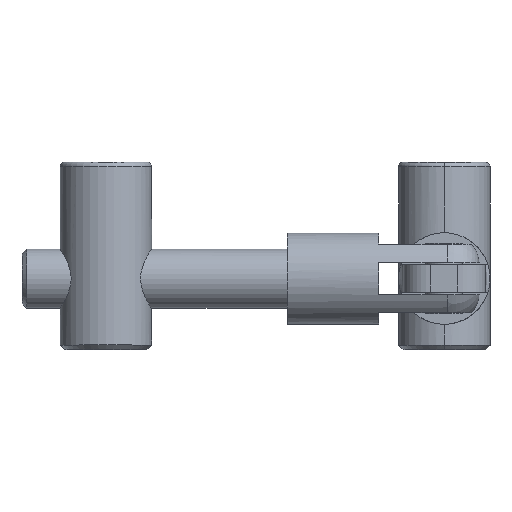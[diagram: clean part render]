
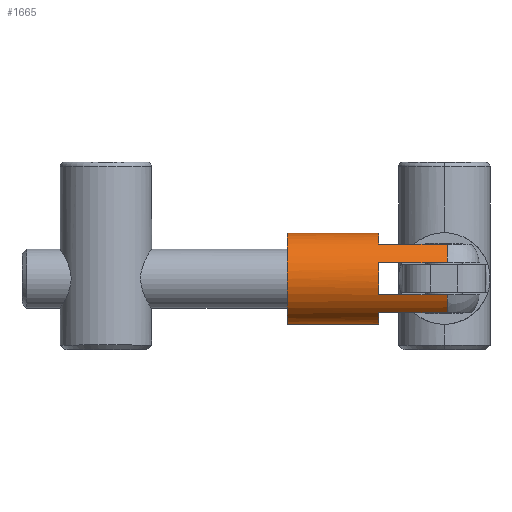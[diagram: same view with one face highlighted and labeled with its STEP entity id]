
A CAD part, top view. The second image highlights one B-rep face of the part: STEP entity #1665.
In plain terms, the highlighted cylindrical face has radius 5 mm (diameter 10 mm), a partial arc.
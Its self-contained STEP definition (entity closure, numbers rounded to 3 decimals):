
#12 = ORIENTED_EDGE ( 'NONE', *, *, #2415, .T. ) ;
#65 = EDGE_CURVE ( 'NONE', #2824, #1765, #717, .T. ) ;
#69 = CARTESIAN_POINT ( 'NONE',  ( -10.274, -2.469, 46.5 ) ) ;
#107 = CARTESIAN_POINT ( 'NONE',  ( -5.274, -2.469, 39. ) ) ;
#131 = ORIENTED_EDGE ( 'NONE', *, *, #199, .F. ) ;
#174 = DIRECTION ( 'NONE',  ( 0., 0., 1. ) ) ;
#199 = EDGE_CURVE ( 'NONE', #1462, #3005, #1901, .T. ) ;
#219 = ORIENTED_EDGE ( 'NONE', *, *, #1911, .T. ) ;
#258 = CIRCLE ( 'NONE', #3291, 5. ) ;
#293 = CARTESIAN_POINT ( 'NONE',  ( -6.538, -5.792, 50. ) ) ;
#306 = VERTEX_POINT ( 'NONE', #2462 ) ;
#328 = EDGE_CURVE ( 'NONE', #1418, #1462, #258, .T. ) ;
#359 = DIRECTION ( 'NONE',  ( -1., 0., 0. ) ) ;
#393 = CARTESIAN_POINT ( 'NONE',  ( -15.274, -2.469, 29. ) ) ;
#463 = CARTESIAN_POINT ( 'NONE',  ( -12.038, -7.148, 50. ) ) ;
#466 = DIRECTION ( 'NONE',  ( 0., 0., 1. ) ) ;
#481 = DIRECTION ( 'NONE',  ( 0., 0., -1. ) ) ;
#520 = EDGE_CURVE ( 'NONE', #2543, #687, #2819, .T. ) ;
#687 = VERTEX_POINT ( 'NONE', #393 ) ;
#717 = CIRCLE ( 'NONE', #3366, 5. ) ;
#778 = CARTESIAN_POINT ( 'NONE',  ( -14.038, -5.761, 50. ) ) ;
#784 = EDGE_CURVE ( 'NONE', #2107, #1782, #2274, .T. ) ;
#787 = CARTESIAN_POINT ( 'NONE',  ( -6.538, -5.792, 39. ) ) ;
#906 = EDGE_LOOP ( 'NONE', ( #131, #3742, #3585, #2322, #12, #3000, #2547, #2007, #219, #2951, #2923, #2605 ) ) ;
#964 = AXIS2_PLACEMENT_3D ( 'NONE', #2220, #466, #2506 ) ;
#968 = CARTESIAN_POINT ( 'NONE',  ( -10.274, -2.469, 46.5 ) ) ;
#1091 = VECTOR ( 'NONE', #2247, 1000. ) ;
#1093 = CARTESIAN_POINT ( 'NONE',  ( -8.538, -7.158, 46.5 ) ) ;
#1130 = CARTESIAN_POINT ( 'NONE',  ( -6.538, -5.792, 46.5 ) ) ;
#1258 = DIRECTION ( 'NONE',  ( -1., 0., 0. ) ) ;
#1286 = CARTESIAN_POINT ( 'NONE',  ( -14.038, -5.761, 39. ) ) ;
#1361 = DIRECTION ( 'NONE',  ( -1., 0., 0. ) ) ;
#1381 = DIRECTION ( 'NONE',  ( 0., 0., 1. ) ) ;
#1388 = EDGE_CURVE ( 'NONE', #1782, #306, #2831, .T. ) ;
#1418 = VERTEX_POINT ( 'NONE', #787 ) ;
#1462 = VERTEX_POINT ( 'NONE', #1968 ) ;
#1485 = CARTESIAN_POINT ( 'NONE',  ( -5.274, -2.469, 29. ) ) ;
#1504 = FACE_OUTER_BOUND ( 'NONE', #906, .T. ) ;
#1554 = AXIS2_PLACEMENT_3D ( 'NONE', #968, #2997, #1258 ) ;
#1574 = VECTOR ( 'NONE', #1978, 1000. ) ;
#1577 = DIRECTION ( 'NONE',  ( 1., 0., 0. ) ) ;
#1614 = DIRECTION ( 'NONE',  ( 0., 0., -1. ) ) ;
#1627 = AXIS2_PLACEMENT_3D ( 'NONE', #3388, #481, #1361 ) ;
#1665 = ADVANCED_FACE ( 'NONE', ( #1504 ), #2962, .T. ) ;
#1671 = CARTESIAN_POINT ( 'NONE',  ( -10.274, -2.469, 29. ) ) ;
#1686 = CARTESIAN_POINT ( 'NONE',  ( -15.274, -2.469, 39. ) ) ;
#1701 = AXIS2_PLACEMENT_3D ( 'NONE', #3120, #1381, #3406 ) ;
#1746 = VERTEX_POINT ( 'NONE', #2264 ) ;
#1763 = CIRCLE ( 'NONE', #3427, 5. ) ;
#1765 = VERTEX_POINT ( 'NONE', #1093 ) ;
#1782 = VERTEX_POINT ( 'NONE', #1975 ) ;
#1886 = EDGE_CURVE ( 'NONE', #2543, #3151, #2092, .T. ) ;
#1900 = CARTESIAN_POINT ( 'NONE',  ( -15.274, -2.469, 39. ) ) ;
#1901 = LINE ( 'NONE', #107, #3355 ) ;
#1911 = EDGE_CURVE ( 'NONE', #1746, #3151, #2604, .T. ) ;
#1926 = CARTESIAN_POINT ( 'NONE',  ( -10.274, -2.469, 39. ) ) ;
#1966 = DIRECTION ( 'NONE',  ( 1., 0., 0. ) ) ;
#1968 = CARTESIAN_POINT ( 'NONE',  ( -5.274, -2.469, 39. ) ) ;
#1975 = CARTESIAN_POINT ( 'NONE',  ( -12.038, -7.148, 39. ) ) ;
#1978 = DIRECTION ( 'NONE',  ( 0., 0., -1. ) ) ;
#2007 = ORIENTED_EDGE ( 'NONE', *, *, #3075, .T. ) ;
#2092 = CIRCLE ( 'NONE', #964, 5. ) ;
#2098 = EDGE_CURVE ( 'NONE', #2824, #1418, #2326, .T. ) ;
#2107 = VERTEX_POINT ( 'NONE', #2634 ) ;
#2114 = DIRECTION ( 'NONE',  ( 0., 0., -1. ) ) ;
#2220 = CARTESIAN_POINT ( 'NONE',  ( -10.274, -2.469, 39. ) ) ;
#2247 = DIRECTION ( 'NONE',  ( 0., 0., -1. ) ) ;
#2264 = CARTESIAN_POINT ( 'NONE',  ( -14.038, -5.761, 46.5 ) ) ;
#2274 = LINE ( 'NONE', #463, #1091 ) ;
#2278 = CARTESIAN_POINT ( 'NONE',  ( -8.538, -7.158, 50. ) ) ;
#2322 = ORIENTED_EDGE ( 'NONE', *, *, #65, .T. ) ;
#2326 = LINE ( 'NONE', #293, #3190 ) ;
#2345 = DIRECTION ( 'NONE',  ( 0., 0., -1. ) ) ;
#2369 = EDGE_CURVE ( 'NONE', #687, #3005, #1763, .T. ) ;
#2415 = EDGE_CURVE ( 'NONE', #1765, #306, #2440, .T. ) ;
#2436 = CIRCLE ( 'NONE', #1554, 5. ) ;
#2440 = LINE ( 'NONE', #2278, #1574 ) ;
#2462 = CARTESIAN_POINT ( 'NONE',  ( -8.538, -7.158, 39. ) ) ;
#2506 = DIRECTION ( 'NONE',  ( 1., 0., 0. ) ) ;
#2543 = VERTEX_POINT ( 'NONE', #1686 ) ;
#2547 = ORIENTED_EDGE ( 'NONE', *, *, #784, .F. ) ;
#2604 = LINE ( 'NONE', #778, #2774 ) ;
#2605 = ORIENTED_EDGE ( 'NONE', *, *, #2369, .T. ) ;
#2634 = CARTESIAN_POINT ( 'NONE',  ( -12.038, -7.148, 46.5 ) ) ;
#2774 = VECTOR ( 'NONE', #2817, 1000. ) ;
#2817 = DIRECTION ( 'NONE',  ( 0., 0., -1. ) ) ;
#2819 = LINE ( 'NONE', #1900, #3499 ) ;
#2824 = VERTEX_POINT ( 'NONE', #1130 ) ;
#2831 = CIRCLE ( 'NONE', #1701, 5. ) ;
#2923 = ORIENTED_EDGE ( 'NONE', *, *, #520, .T. ) ;
#2951 = ORIENTED_EDGE ( 'NONE', *, *, #1886, .F. ) ;
#2962 = CYLINDRICAL_SURFACE ( 'NONE', #1627, 5. ) ;
#2997 = DIRECTION ( 'NONE',  ( 0., 0., -1. ) ) ;
#3000 = ORIENTED_EDGE ( 'NONE', *, *, #1388, .F. ) ;
#3005 = VERTEX_POINT ( 'NONE', #1485 ) ;
#3075 = EDGE_CURVE ( 'NONE', #2107, #1746, #2436, .T. ) ;
#3120 = CARTESIAN_POINT ( 'NONE',  ( -10.274, -2.469, 39. ) ) ;
#3151 = VERTEX_POINT ( 'NONE', #1286 ) ;
#3190 = VECTOR ( 'NONE', #2345, 1000. ) ;
#3291 = AXIS2_PLACEMENT_3D ( 'NONE', #1926, #174, #1577 ) ;
#3355 = VECTOR ( 'NONE', #3603, 1000. ) ;
#3366 = AXIS2_PLACEMENT_3D ( 'NONE', #69, #2114, #359 ) ;
#3388 = CARTESIAN_POINT ( 'NONE',  ( -10.274, -2.469, 39. ) ) ;
#3406 = DIRECTION ( 'NONE',  ( 1., 0., 0. ) ) ;
#3427 = AXIS2_PLACEMENT_3D ( 'NONE', #1671, #3700, #1966 ) ;
#3499 = VECTOR ( 'NONE', #1614, 1000. ) ;
#3585 = ORIENTED_EDGE ( 'NONE', *, *, #2098, .F. ) ;
#3603 = DIRECTION ( 'NONE',  ( 0., 0., -1. ) ) ;
#3700 = DIRECTION ( 'NONE',  ( 0., 0., 1. ) ) ;
#3742 = ORIENTED_EDGE ( 'NONE', *, *, #328, .F. ) ;
